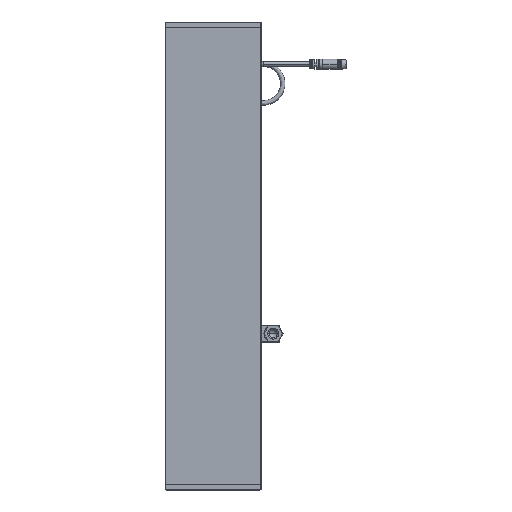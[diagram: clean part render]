
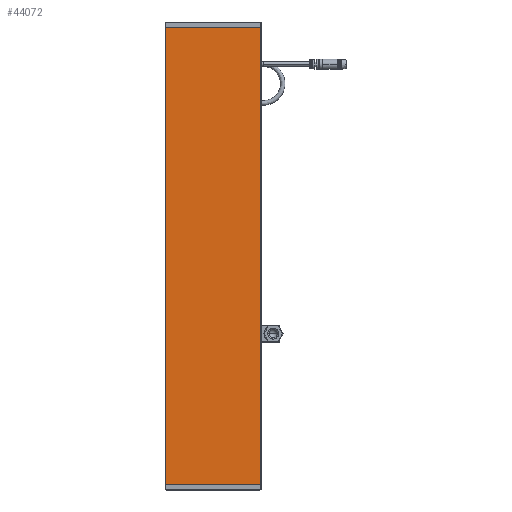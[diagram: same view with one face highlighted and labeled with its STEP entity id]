
A CAD part, front view. The second image highlights one B-rep face of the part: STEP entity #44072.
In plain terms, the highlighted planar face has unit normal (0, -1, 0).
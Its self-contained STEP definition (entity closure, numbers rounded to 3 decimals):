
#157 = EDGE_CURVE ( 'NONE', #36666, #5581, #20406, .T. ) ;
#251 = LINE ( 'NONE', #1548, #54828 ) ;
#1548 = CARTESIAN_POINT ( 'NONE',  ( 434.647, 1138.3, 533.765 ) ) ;
#2028 =( BOUNDED_CURVE ( )  B_SPLINE_CURVE ( 2, ( #52880, #13055, #22143 ),
 .UNSPECIFIED., .F., .F. ) 
 B_SPLINE_CURVE_WITH_KNOTS ( ( 3, 3 ),
 ( 0., 1. ),
 .UNSPECIFIED. ) 
 CURVE ( )  GEOMETRIC_REPRESENTATION_ITEM ( )  RATIONAL_B_SPLINE_CURVE ( ( 1., 0.707, 1. ) ) 
 REPRESENTATION_ITEM ( '' )  );
#2102 = ORIENTED_EDGE ( 'NONE', *, *, #38243, .F. ) ;
#2307 = CARTESIAN_POINT ( 'NONE',  ( 433.147, 1138.3, 532.265 ) ) ;
#2792 = ORIENTED_EDGE ( 'NONE', *, *, #49002, .F. ) ;
#4485 = CARTESIAN_POINT ( 'NONE',  ( 433.147, 1138.3, 135.265 ) ) ;
#4801 = CARTESIAN_POINT ( 'NONE',  ( 516.747, 1138.3, 532.265 ) ) ;
#5457 =( BOUNDED_CURVE ( )  B_SPLINE_CURVE ( 2, ( #2307, #50375, #19831 ),
 .UNSPECIFIED., .F., .F. ) 
 B_SPLINE_CURVE_WITH_KNOTS ( ( 3, 3 ),
 ( 0., 1. ),
 .UNSPECIFIED. ) 
 CURVE ( )  GEOMETRIC_REPRESENTATION_ITEM ( )  RATIONAL_B_SPLINE_CURVE ( ( 1., 0.707, 1. ) ) 
 REPRESENTATION_ITEM ( '' )  );
#5581 = VERTEX_POINT ( 'NONE', #25927 ) ;
#8412 = VERTEX_POINT ( 'NONE', #49069 ) ;
#10138 = ORIENTED_EDGE ( 'NONE', *, *, #28790, .F. ) ;
#10799 = FACE_OUTER_BOUND ( 'NONE', #55393, .T. ) ;
#10986 = ORIENTED_EDGE ( 'NONE', *, *, #37253, .F. ) ;
#11139 = VECTOR ( 'NONE', #19415, 1000. ) ;
#11638 = CARTESIAN_POINT ( 'NONE',  ( 434.647, 1138.3, 533.765 ) ) ;
#12697 = LINE ( 'NONE', #4801, #39237 ) ;
#13055 = CARTESIAN_POINT ( 'NONE',  ( 516.747, 1138.3, 533.765 ) ) ;
#13554 = CARTESIAN_POINT ( 'NONE',  ( 515.247, 1138.3, 133.765 ) ) ;
#13634 = VERTEX_POINT ( 'NONE', #40795 ) ;
#14576 =( BOUNDED_CURVE ( )  B_SPLINE_CURVE ( 2, ( #33940, #29747, #51299 ),
 .UNSPECIFIED., .F., .F. ) 
 B_SPLINE_CURVE_WITH_KNOTS ( ( 3, 3 ),
 ( 0., 1. ),
 .UNSPECIFIED. ) 
 CURVE ( )  GEOMETRIC_REPRESENTATION_ITEM ( )  RATIONAL_B_SPLINE_CURVE ( ( 1., 0.707, 1. ) ) 
 REPRESENTATION_ITEM ( '' )  );
#14891 = ORIENTED_EDGE ( 'NONE', *, *, #18572, .F. ) ;
#15922 = ORIENTED_EDGE ( 'NONE', *, *, #38836, .F. ) ;
#16884 = AXIS2_PLACEMENT_3D ( 'NONE', #20671, #24673, #37287 ) ;
#18572 = EDGE_CURVE ( 'NONE', #5581, #24312, #5457, .T. ) ;
#19415 = DIRECTION ( 'NONE',  ( -1., 0., 0. ) ) ;
#19831 = CARTESIAN_POINT ( 'NONE',  ( 434.647, 1138.3, 533.765 ) ) ;
#19964 = LINE ( 'NONE', #55098, #11139 ) ;
#20378 = EDGE_CURVE ( 'NONE', #49115, #32783, #19964, .T. ) ;
#20406 = LINE ( 'NONE', #4485, #28603 ) ;
#20671 = CARTESIAN_POINT ( 'NONE',  ( 428.967, 1138.3, 553.765 ) ) ;
#22143 = CARTESIAN_POINT ( 'NONE',  ( 516.747, 1138.3, 532.265 ) ) ;
#24312 = VERTEX_POINT ( 'NONE', #11638 ) ;
#24673 = DIRECTION ( 'NONE',  ( 0., -1., 0. ) ) ;
#25927 = CARTESIAN_POINT ( 'NONE',  ( 433.147, 1138.3, 532.265 ) ) ;
#26788 = ORIENTED_EDGE ( 'NONE', *, *, #20378, .F. ) ;
#28603 = VECTOR ( 'NONE', #34957, 1000. ) ;
#28790 = EDGE_CURVE ( 'NONE', #38453, #13634, #12697, .T. ) ;
#29747 = CARTESIAN_POINT ( 'NONE',  ( 433.147, 1138.3, 133.765 ) ) ;
#32677 = CARTESIAN_POINT ( 'NONE',  ( 516.747, 1138.3, 135.265 ) ) ;
#32783 = VERTEX_POINT ( 'NONE', #52421 ) ;
#33940 = CARTESIAN_POINT ( 'NONE',  ( 434.647, 1138.3, 133.765 ) ) ;
#34957 = DIRECTION ( 'NONE',  ( 0., 0., 1. ) ) ;
#35181 = CARTESIAN_POINT ( 'NONE',  ( 433.147, 1138.3, 135.265 ) ) ;
#35652 = DIRECTION ( 'NONE',  ( 0., 0., -1. ) ) ;
#36666 = VERTEX_POINT ( 'NONE', #35181 ) ;
#37253 = EDGE_CURVE ( 'NONE', #24312, #8412, #251, .T. ) ;
#37287 = DIRECTION ( 'NONE',  ( 0., 0., -1. ) ) ;
#38243 = EDGE_CURVE ( 'NONE', #13634, #49115, #44316, .T. ) ;
#38318 = ORIENTED_EDGE ( 'NONE', *, *, #157, .F. ) ;
#38453 = VERTEX_POINT ( 'NONE', #45282 ) ;
#38836 = EDGE_CURVE ( 'NONE', #8412, #38453, #2028, .T. ) ;
#39237 = VECTOR ( 'NONE', #35652, 1000. ) ;
#40795 = CARTESIAN_POINT ( 'NONE',  ( 516.747, 1138.3, 135.265 ) ) ;
#41064 = CARTESIAN_POINT ( 'NONE',  ( 516.747, 1138.3, 133.765 ) ) ;
#44072 = ADVANCED_FACE ( 'NONE', ( #10799 ), #51024, .T. ) ;
#44316 =( BOUNDED_CURVE ( )  B_SPLINE_CURVE ( 2, ( #32677, #41064, #54448 ),
 .UNSPECIFIED., .F., .F. ) 
 B_SPLINE_CURVE_WITH_KNOTS ( ( 3, 3 ),
 ( 0., 1. ),
 .UNSPECIFIED. ) 
 CURVE ( )  GEOMETRIC_REPRESENTATION_ITEM ( )  RATIONAL_B_SPLINE_CURVE ( ( 1., 0.707, 1. ) ) 
 REPRESENTATION_ITEM ( '' )  );
#45282 = CARTESIAN_POINT ( 'NONE',  ( 516.747, 1138.3, 532.265 ) ) ;
#45410 = DIRECTION ( 'NONE',  ( 1., 0., 0. ) ) ;
#49002 = EDGE_CURVE ( 'NONE', #32783, #36666, #14576, .T. ) ;
#49069 = CARTESIAN_POINT ( 'NONE',  ( 515.247, 1138.3, 533.765 ) ) ;
#49115 = VERTEX_POINT ( 'NONE', #13554 ) ;
#50375 = CARTESIAN_POINT ( 'NONE',  ( 433.147, 1138.3, 533.765 ) ) ;
#51024 = PLANE ( 'NONE',  #16884 ) ;
#51299 = CARTESIAN_POINT ( 'NONE',  ( 433.147, 1138.3, 135.265 ) ) ;
#52421 = CARTESIAN_POINT ( 'NONE',  ( 434.647, 1138.3, 133.765 ) ) ;
#52880 = CARTESIAN_POINT ( 'NONE',  ( 515.247, 1138.3, 533.765 ) ) ;
#54448 = CARTESIAN_POINT ( 'NONE',  ( 515.247, 1138.3, 133.765 ) ) ;
#54828 = VECTOR ( 'NONE', #45410, 1000. ) ;
#55098 = CARTESIAN_POINT ( 'NONE',  ( 515.247, 1138.3, 133.765 ) ) ;
#55393 = EDGE_LOOP ( 'NONE', ( #15922, #10986, #14891, #38318, #2792, #26788, #2102, #10138 ) ) ;
